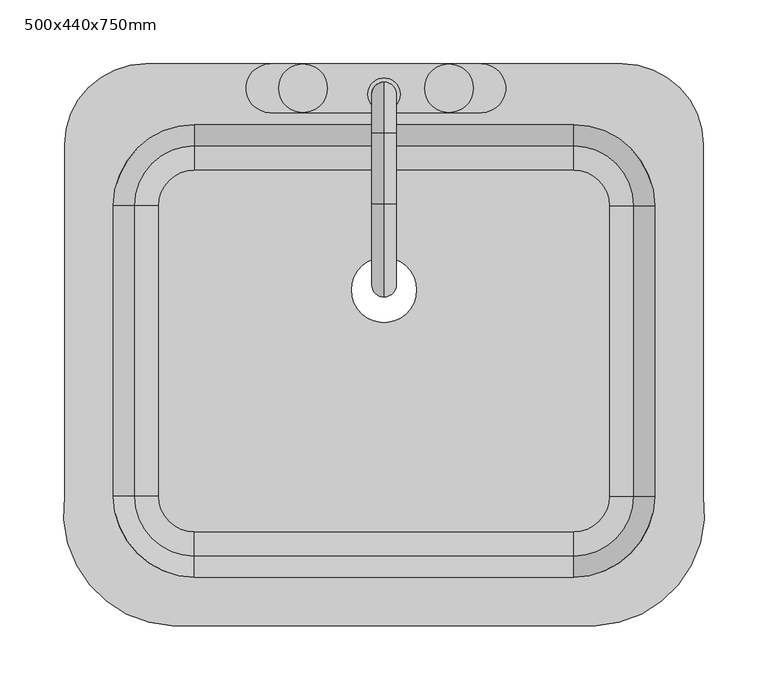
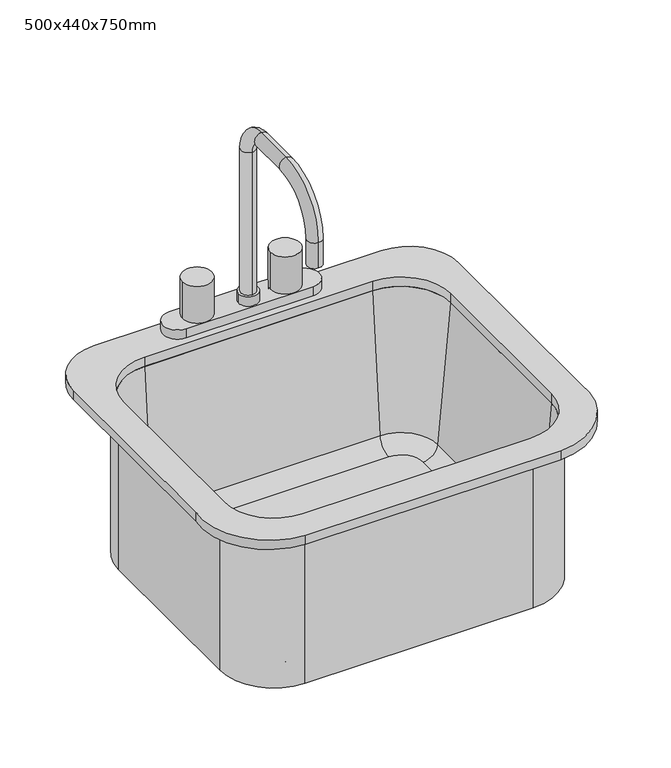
"""IFC4 building model written with IfcOpenShell, lengths in millimetres: flow terminal geometry, ARQ_LAVAPLATOS : 500x440x750mm."""

from ifc_helpers import new_model, si_unit, point, frame, frame_2d, origin, place, context, project, spatial, polyline, circle_curve, ellipse_curve, trimmed, segment, composite_curve, outline, extrude, source, transform, mapped, element, save
from ifc_brep_helpers import plane_surface, cylinder_surface, revolved_surface, advanced_brep


def flow_terminal_500x440x750mm_21f9f58f(model_context):
    return source(origin(), model_context, "Body", "SolidModel", [
        advanced_brep(
        [(233.9392406, 69.0204011, 534.1), (164.0892406, 138.8704011, 534.1), (164.0892406, 138.8704011, 750.0), (233.9392406, 69.0204011, 750.0), (233.9392406, -158.2545989, 534.1), (164.0892406, -228.1045989, 534.1), (-132.7107594, -228.1045989, 534.1), (-202.5607594, -158.2545989, 534.1), (-202.5607594, 69.0204011, 534.1), (-132.7107594, 138.8704011, 534.1), (-9.7107594, 3.175, 534.1), (41.0892406, 3.175, 534.1), (192.0776588, 69.0204011, 543.625), (164.0892406, 97.0088193, 543.625), (-132.7107594, 97.0088193, 543.625), (-160.6991776, 69.0204011, 543.625), (-160.6991776, -158.2545989, 543.625), (-132.7107594, -186.2430171, 543.625), (164.0892406, -186.2430171, 543.625), (192.0776588, -158.2545989, 543.625), (-9.7107594, 3.175, 543.625), (41.0892406, 3.175, 543.625), (211.0551678, 69.0204011, 561.0146831), (164.0892406, 115.9863283, 561.0146831), (227.5892406, 69.0204011, 750.0), (164.0892406, 132.5204011, 750.0), (233.9392406, -158.2545989, 750.0), (211.0551678, -158.2545989, 561.0146831), (227.5892406, -158.2545989, 750.0), (164.0892406, -228.1045989, 750.0), (164.0892406, -205.2205261, 561.0146831), (164.0892406, -221.7545989, 750.0), (-132.7107594, -228.1045989, 750.0), (-132.7107594, -205.2205261, 561.0146831), (-132.7107594, -221.7545989, 750.0), (-202.5607594, -158.2545989, 750.0), (-179.6766866, -158.2545989, 561.0146831), (-196.2107594, -158.2545989, 750.0), (-202.5607594, 69.0204011, 750.0), (-179.6766866, 69.0204011, 561.0146831), (-196.2107594, 69.0204011, 750.0), (-132.7107594, 138.8704011, 750.0), (-132.7107594, 115.9863283, 561.0146831), (-132.7107594, 132.5204011, 750.0)],
        [
            (0, 1, circle_curve(frame((164.0892406, 69.0204011, 534.1), z_axis=(0.0, 0.0, 1.0), x_axis=(0.0, 1.0, 0.0)), 69.85)),
            (1, 2),
            (2, 3, circle_curve(frame((164.0892406, 69.0204011, 750.0), z_axis=(0.0, 0.0, -1.0), x_axis=(0.0, 1.0, 0.0)), 69.85)),
            (3, 0),
            (0, 4),
            (4, 5, circle_curve(frame((164.0892406, -158.2545989, 534.1), z_axis=(0.0, 0.0, -1.0), x_axis=(1.0, 0.0, 0.0)), 69.85)),
            (5, 6),
            (6, 7, circle_curve(frame((-132.7107594, -158.2545989, 534.1), z_axis=(0.0, 0.0, -1.0), x_axis=(0.0, -1.0, 0.0)), 69.85)),
            (7, 8),
            (8, 9, circle_curve(frame((-132.7107594, 69.0204011, 534.1), z_axis=(0.0, 0.0, -1.0), x_axis=(-1.0, 0.0, 0.0)), 69.85)),
            (9, 1),
            (10, 11, circle_curve(frame((15.6892406, 3.175, 534.1), z_axis=(0.0, 0.0, 1.0), x_axis=(1.0, 0.0, 0.0)), 25.4)),
            (11, 10, circle_curve(frame((15.6892406, 3.175, 534.1), z_axis=(0.0, 0.0, 1.0), x_axis=(1.0, 0.0, 0.0)), 25.4)),
            (12, 13, circle_curve(frame((164.0892406, 69.0204011, 543.625), z_axis=(0.0, 0.0, 1.0), x_axis=(0.0, 1.0, 0.0)), 27.9884182)),
            (13, 14),
            (14, 15, circle_curve(frame((-132.7107594, 69.0204011, 543.625), z_axis=(0.0, 0.0, 1.0), x_axis=(-1.0, 0.0, 0.0)), 27.9884182)),
            (15, 16),
            (16, 17, circle_curve(frame((-132.7107594, -158.2545989, 543.625), z_axis=(0.0, 0.0, 1.0), x_axis=(0.0, -1.0, 0.0)), 27.9884182)),
            (17, 18),
            (18, 19, circle_curve(frame((164.0892406, -158.2545989, 543.625), z_axis=(0.0, 0.0, 1.0), x_axis=(1.0, 0.0, 0.0)), 27.9884182)),
            (19, 12),
            (20, 21, circle_curve(frame((15.6892406, 3.175, 543.625), z_axis=(0.0, 0.0, -1.0), x_axis=(1.0, 0.0, 0.0)), 25.4)),
            (21, 20, circle_curve(frame((15.6892406, 3.175, 543.625), z_axis=(0.0, 0.0, -1.0), x_axis=(1.0, 0.0, 0.0)), 25.4)),
            (12, 22, circle_curve(frame((192.0776588, 69.0204011, 562.675), z_axis=(0.0, -1.0, 0.0), x_axis=(1.0, 0.0, 0.0)), 19.05)),
            (22, 23, circle_curve(frame((164.0892406, 69.0204011, 561.0146831), z_axis=(0.0, 0.0, 1.0), x_axis=(0.0, 1.0, 0.0)), 46.9659272)),
            (23, 13, circle_curve(frame((164.0892406, 97.0088193, 562.675), z_axis=(-1.0, 0.0, 0.0), x_axis=(0.0, 1.0, 0.0)), 19.05)),
            (22, 24),
            (24, 25, circle_curve(frame((164.0892406, 69.0204011, 750.0), z_axis=(0.0, 0.0, 1.0), x_axis=(0.0, 1.0, 0.0)), 63.5)),
            (25, 23),
            (2, 25),
            (24, 3),
            (3, 26),
            (26, 4),
            (19, 27, circle_curve(frame((192.0776588, -158.2545989, 562.675), z_axis=(0.0, -1.0, 0.0), x_axis=(1.0, 0.0, 0.0)), 19.05)),
            (27, 22),
            (27, 28),
            (28, 24),
            (28, 26),
            (26, 29, circle_curve(frame((164.0892406, -158.2545989, 750.0), z_axis=(0.0, 0.0, -1.0), x_axis=(1.0, 0.0, 0.0)), 69.85)),
            (29, 5),
            (18, 30, circle_curve(frame((164.0892406, -186.2430171, 562.675), z_axis=(-1.0, 0.0, 0.0), x_axis=(0.0, -1.0, 0.0)), 19.05)),
            (30, 27, circle_curve(frame((164.0892406, -158.2545989, 561.0146831), z_axis=(0.0, 0.0, 1.0), x_axis=(1.0, 0.0, 0.0)), 46.9659272)),
            (30, 31),
            (31, 28, circle_curve(frame((164.0892406, -158.2545989, 750.0), z_axis=(0.0, 0.0, 1.0), x_axis=(1.0, 0.0, 0.0)), 63.5)),
            (31, 29),
            (29, 32),
            (32, 6),
            (17, 33, circle_curve(frame((-132.7107594, -186.2430171, 562.675), z_axis=(-1.0, 0.0, 0.0), x_axis=(0.0, -1.0, 0.0)), 19.05)),
            (33, 30),
            (33, 34),
            (34, 31),
            (34, 32),
            (32, 35, circle_curve(frame((-132.7107594, -158.2545989, 750.0), z_axis=(0.0, 0.0, -1.0), x_axis=(0.0, -1.0, 0.0)), 69.85)),
            (35, 7),
            (16, 36, circle_curve(frame((-160.6991776, -158.2545989, 562.675), z_axis=(0.0, 1.0, 0.0), x_axis=(-1.0, 0.0, 0.0)), 19.05)),
            (36, 33, circle_curve(frame((-132.7107594, -158.2545989, 561.0146831), z_axis=(0.0, 0.0, 1.0), x_axis=(0.0, -1.0, 0.0)), 46.9659272)),
            (36, 37),
            (37, 34, circle_curve(frame((-132.7107594, -158.2545989, 750.0), z_axis=(0.0, 0.0, 1.0), x_axis=(0.0, -1.0, 0.0)), 63.5)),
            (37, 35),
            (35, 38),
            (38, 8),
            (15, 39, circle_curve(frame((-160.6991776, 69.0204011, 562.675), z_axis=(0.0, 1.0, 0.0), x_axis=(-1.0, 0.0, 0.0)), 19.05)),
            (39, 36),
            (39, 40),
            (40, 37),
            (40, 38),
            (38, 41, circle_curve(frame((-132.7107594, 69.0204011, 750.0), z_axis=(0.0, 0.0, -1.0), x_axis=(-1.0, 0.0, 0.0)), 69.85)),
            (41, 9),
            (14, 42, circle_curve(frame((-132.7107594, 97.0088193, 562.675), z_axis=(1.0, 0.0, 0.0), x_axis=(0.0, 1.0, 0.0)), 19.05)),
            (42, 39, circle_curve(frame((-132.7107594, 69.0204011, 561.0146831), z_axis=(0.0, 0.0, 1.0), x_axis=(-1.0, 0.0, 0.0)), 46.9659272)),
            (42, 43),
            (43, 40, circle_curve(frame((-132.7107594, 69.0204011, 750.0), z_axis=(0.0, 0.0, 1.0), x_axis=(-1.0, 0.0, 0.0)), 63.5)),
            (43, 41),
            (41, 2),
            (23, 42),
            (25, 43),
            (20, 10),
            (11, 21),
        ],
        [
            cylinder_surface(frame((164.0892406, 69.0204011, 0.0), z_axis=(0.0, 0.0, -1.0), x_axis=(0.0, 1.0, 0.0)), 69.85),
            plane_surface(frame((164.0892406, 69.0204011, 534.1), z_axis=(0.0, 0.0, -1.0), x_axis=(0.0, 1.0, 0.0))),
            plane_surface(frame((164.0892406, 69.0204011, 543.625), z_axis=(0.0, 0.0, 1.0), x_axis=(0.0, 1.0, 0.0))),
            revolved_surface(trimmed(ellipse_curve(frame((164.0892406, 97.0088193, 562.675), z_axis=(1.0, 0.0, 0.0), x_axis=(0.0, 1.0, 0.0)), 19.05, 19.05), [point((164.0892406, 97.0088193, 543.625))], [point((164.0892406, 115.9863283, 561.0146831))], True, "CARTESIAN"), (164.0892406, 69.0204011, 0.0), (0.0, 0.0, -1.0)),
            revolved_surface(polyline([(164.0892406, 115.9863283, 561.0146831), (164.0892406, 132.5204011, 750.0)]), (164.0892406, 69.0204011, 0.0), (0.0, 0.0, -1.0)),
            plane_surface(frame((164.0892406, 69.0204011, 750.0), z_axis=(0.0, 0.0, 1.0), x_axis=(0.0, 1.0, 0.0))),
            plane_surface(frame((233.9392406, 69.0204011, 750.0), z_axis=(1.0, 0.0, 0.0), x_axis=(0.0, -1.0, 0.0))),
            revolved_surface(polyline([(211.1276588, -158.25459889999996, 562.675), (211.1276588, 69.0204011, 562.675)]), (192.0776588, 69.0204011, 562.675), (0.0, -1.0, 0.0)),
            plane_surface(frame((211.0551678, 69.0204011, 561.0146831), z_axis=(-0.9961946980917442, 0.0, 0.0871557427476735), x_axis=(0.0, -1.0, 0.0))),
            plane_surface(frame((227.5892406, 69.0204011, 750.0), z_axis=(0.0, 0.0, 1.0), x_axis=(0.0, -1.0, 0.0))),
            cylinder_surface(frame((164.0892406, -158.2545989, 0.0), z_axis=(0.0, 0.0, -1.0), x_axis=(1.0, 0.0, 0.0)), 69.85),
            revolved_surface(trimmed(ellipse_curve(frame((192.0776588, -158.2545989, 562.675), z_axis=(0.0, -1.0, 0.0), x_axis=(1.0, 0.0, 0.0)), 19.05, 19.05), [point((192.0776588, -158.2545989, 543.625))], [point((211.0551678, -158.2545989, 561.0146831))], True, "CARTESIAN"), (164.0892406, -158.2545989, 0.0), (0.0, 0.0, -1.0)),
            revolved_surface(polyline([(211.0551678, -158.2545989, 561.0146831), (227.5892406, -158.2545989, 750.0)]), (164.0892406, -158.2545989, 0.0), (0.0, 0.0, -1.0)),
            plane_surface(frame((164.0892406, -158.2545989, 750.0), z_axis=(0.0, 0.0, 1.0), x_axis=(1.0, 0.0, 0.0))),
            plane_surface(frame((164.0892406, -228.1045989, 750.0), z_axis=(0.0, -1.0, 0.0), x_axis=(-1.0, 0.0, 0.0))),
            revolved_surface(polyline([(-132.7107594, -205.29301710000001, 562.675), (164.0892406, -205.29301710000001, 562.675)]), (164.0892406, -186.2430171, 562.675), (-1.0, 0.0, 0.0)),
            plane_surface(frame((164.0892406, -205.2205261, 561.0146831), z_axis=(0.0, 0.9961946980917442, 0.0871557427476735), x_axis=(-1.0, 0.0, 0.0))),
            plane_surface(frame((164.0892406, -221.7545989, 750.0), z_axis=(0.0, 0.0, 1.0), x_axis=(-1.0, 0.0, 0.0))),
            cylinder_surface(frame((-132.7107594, -158.2545989, 0.0), z_axis=(0.0, 0.0, -1.0), x_axis=(0.0, -1.0, 0.0)), 69.85),
            revolved_surface(trimmed(ellipse_curve(frame((-132.7107594, -186.2430171, 562.675), z_axis=(-1.0, 0.0, 0.0), x_axis=(0.0, -1.0, 0.0)), 19.05, 19.05), [point((-132.7107594, -186.2430171, 543.625))], [point((-132.7107594, -205.2205261, 561.0146831))], True, "CARTESIAN"), (-132.7107594, -158.2545989, 0.0), (0.0, 0.0, -1.0)),
            revolved_surface(polyline([(-132.7107594, -205.2205261, 561.0146831), (-132.7107594, -221.7545989, 750.0)]), (-132.7107594, -158.2545989, 0.0), (0.0, 0.0, -1.0)),
            plane_surface(frame((-132.7107594, -158.2545989, 750.0), z_axis=(0.0, 0.0, 1.0), x_axis=(0.0, -1.0, 0.0))),
            plane_surface(frame((-202.5607594, -158.2545989, 750.0), z_axis=(-1.0, 0.0, 0.0), x_axis=(0.0, 1.0, 0.0))),
            revolved_surface(polyline([(-179.74917760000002, 69.02040109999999, 562.675), (-179.74917760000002, -158.2545989, 562.675)]), (-160.6991776, -158.2545989, 562.675), (0.0, 1.0, 0.0)),
            plane_surface(frame((-179.6766866, -158.2545989, 561.0146831), z_axis=(0.9961946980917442, 0.0, 0.0871557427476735), x_axis=(0.0, 1.0, 0.0))),
            plane_surface(frame((-196.2107594, -158.2545989, 750.0), z_axis=(0.0, 0.0, 1.0), x_axis=(0.0, 1.0, 0.0))),
            cylinder_surface(frame((-132.7107594, 69.0204011, 0.0), z_axis=(0.0, 0.0, -1.0), x_axis=(-1.0, 0.0, 0.0)), 69.85),
            revolved_surface(trimmed(ellipse_curve(frame((-160.6991776, 69.0204011, 562.675), z_axis=(0.0, 1.0, 0.0), x_axis=(-1.0, 0.0, 0.0)), 19.05, 19.05), [point((-160.6991776, 69.0204011, 543.625))], [point((-179.6766866, 69.0204011, 561.0146831))], True, "CARTESIAN"), (-132.7107594, 69.0204011, 0.0), (0.0, 0.0, -1.0)),
            revolved_surface(polyline([(-179.6766866, 69.0204011, 561.0146831), (-196.2107594, 69.0204011, 750.0)]), (-132.7107594, 69.0204011, 0.0), (0.0, 0.0, -1.0)),
            plane_surface(frame((-132.7107594, 69.0204011, 750.0), z_axis=(0.0, 0.0, 1.0), x_axis=(-1.0, 0.0, 0.0))),
            plane_surface(frame((-132.7107594, 138.8704011, 750.0), z_axis=(0.0, 1.0, 0.0), x_axis=(1.0, 0.0, 0.0))),
            revolved_surface(polyline([(164.0892406, 116.0588193, 562.675), (-132.7107594, 116.0588193, 562.675)]), (-132.7107594, 97.0088193, 562.675), (1.0, 0.0, 0.0)),
            plane_surface(frame((-132.7107594, 115.9863283, 561.0146831), z_axis=(0.0, -0.9961946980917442, 0.0871557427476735), x_axis=(1.0, 0.0, 0.0))),
            plane_surface(frame((-132.7107594, 132.5204011, 750.0), z_axis=(0.0, 0.0, 1.0), x_axis=(1.0, 0.0, 0.0))),
            revolved_surface(polyline([(41.0892406, 3.175, 534.1), (41.0892406, 3.175, 543.625)]), (15.6892406, 3.175, 0.0), (0.0, 0.0, -1.0)),
        ],
        [
            (0, [[1, 2, 3, 4]]),
            (1, [[-1, 5, 6, 7, 8, 9, 10, 11], [12, 13]]),
            (2, [[14, 15, 16, 17, 18, 19, 20, 21], [22, 23]]),
            (3, [[-14, 24, 25, 26]]),
            (4, [[-25, 27, 28, 29]]),
            (5, [[-3, 30, -28, 31]]),
            (6, [[-4, 32, 33, -5]]),
            (7, [[-24, -21, 34, 35]]),
            (8, [[-27, -35, 36, 37]]),
            (9, [[-31, -37, 38, -32]]),
            (10, [[-33, 39, 40, -6]]),
            (11, [[-34, -20, 41, 42]]),
            (12, [[-36, -42, 43, 44]]),
            (13, [[-38, -44, 45, -39]]),
            (14, [[-40, 46, 47, -7]]),
            (15, [[-41, -19, 48, 49]]),
            (16, [[-43, -49, 50, 51]]),
            (17, [[-45, -51, 52, -46]]),
            (18, [[-47, 53, 54, -8]]),
            (19, [[-48, -18, 55, 56]]),
            (20, [[-50, -56, 57, 58]]),
            (21, [[-52, -58, 59, -53]]),
            (22, [[-54, 60, 61, -9]]),
            (23, [[-55, -17, 62, 63]]),
            (24, [[-57, -63, 64, 65]]),
            (25, [[-59, -65, 66, -60]]),
            (26, [[-61, 67, 68, -10]]),
            (27, [[-62, -16, 69, 70]]),
            (28, [[-64, -70, 71, 72]]),
            (29, [[-66, -72, 73, -67]]),
            (30, [[-2, -11, -68, 74]]),
            (31, [[-26, 75, -69, -15]]),
            (32, [[-29, 76, -71, -75]]),
            (33, [[-30, -74, -73, -76]]),
            (34, [[-22, 77, -13, 78]]),
            (34, [[-23, -78, -12, -77]]),
        ],
    ),
        advanced_brep(
        [(91.8892406, 180.1454011, 762.7), (91.8892406, 142.0454011, 762.7), (-73.2107594, 142.0454011, 762.7), (-73.2107594, 180.1454011, 762.7), (15.6892406, 165.8579011, 983.3625), (15.6892406, 146.8079011, 983.3625), (15.6892406, 146.8079011, 788.1), (15.6892406, 165.8579011, 788.1), (15.6892406, 126.1704011, 1023.05), (15.6892406, 126.1704011, 1004.0), (15.6892406, 70.6079011, 1023.05), (15.6892406, 70.6079011, 1004.0), (15.6892406, -2.4170989, 950.025), (15.6892406, 16.6329011, 950.025), (15.6892406, -2.4170989, 915.1), (15.6892406, 16.6329011, 915.1), (2.9892406, 156.3329011, 788.1), (28.3892406, 156.3329011, 788.1), (2.9892406, 156.3329011, 775.2), (28.3892406, 156.3329011, 775.2), (91.8892406, 180.1454011, 775.2), (-73.2107594, 180.1454011, 775.2), (-73.2107594, 142.0454011, 775.2), (91.8892406, 142.0454011, 775.2)],
        [
            (0, 1, circle_curve(frame((91.8892406, 161.0954011, 762.7), z_axis=(0.0, 0.0, -1.0), x_axis=(1.0, 0.0, 0.0)), 19.05)),
            (1, 2),
            (2, 3, circle_curve(frame((-73.2107594, 161.0954011, 762.7), z_axis=(0.0, 0.0, -1.0), x_axis=(1.0, 0.0, 0.0)), 19.05)),
            (3, 0),
            (4, 5, circle_curve(frame((15.6892406, 156.3329011, 983.3625), z_axis=(0.0, 0.0, -1.0), x_axis=(0.0, -1.0, 0.0)), 9.525)),
            (5, 6),
            (6, 7, circle_curve(frame((15.6892406, 156.3329011, 788.1), z_axis=(0.0, 0.0, 1.0), x_axis=(0.0, -1.0, 0.0)), 9.525)),
            (7, 4),
            (5, 4, circle_curve(frame((15.6892406, 156.3329011, 983.3625), z_axis=(0.0, 0.0, -1.0), x_axis=(0.0, -1.0, 0.0)), 9.525)),
            (7, 6, circle_curve(frame((15.6892406, 156.3329011, 788.1), z_axis=(0.0, 0.0, 1.0), x_axis=(0.0, -1.0, 0.0)), 9.525)),
            (4, 8, circle_curve(frame((15.6892406, 126.1704011, 983.3625), z_axis=(1.0, 0.0, 0.0), x_axis=(0.0, 1.0, 0.0)), 39.6875)),
            (8, 9, circle_curve(frame((15.6892406, 126.1704011, 1013.525), z_axis=(0.0, 1.0, 0.0), x_axis=(0.0, 0.0, -1.0)), 9.525)),
            (9, 5, circle_curve(frame((15.6892406, 126.1704011, 983.3625), z_axis=(-1.0, 0.0, 0.0), x_axis=(0.0, 1.0, 0.0)), 20.6375)),
            (9, 8, circle_curve(frame((15.6892406, 126.1704011, 1013.525), z_axis=(0.0, 1.0, 0.0), x_axis=(0.0, 0.0, -1.0)), 9.525)),
            (8, 10),
            (10, 11, circle_curve(frame((15.6892406, 70.6079011, 1013.525), z_axis=(0.0, 1.0, 0.0), x_axis=(0.0, 0.0, -1.0)), 9.525)),
            (11, 9),
            (11, 10, circle_curve(frame((15.6892406, 70.6079011, 1013.525), z_axis=(0.0, 1.0, 0.0), x_axis=(0.0, 0.0, -1.0)), 9.525)),
            (10, 12, circle_curve(frame((15.6892406, 70.6079011, 950.025), z_axis=(1.0, 0.0, 0.0), x_axis=(0.0, 0.0, 1.0)), 73.025)),
            (12, 13, circle_curve(frame((15.6892406, 7.1079011, 950.025), z_axis=(0.0, 0.0, 1.0), x_axis=(0.0, 1.0, 0.0)), 9.525)),
            (13, 11, circle_curve(frame((15.6892406, 70.6079011, 950.025), z_axis=(-1.0, 0.0, 0.0), x_axis=(0.0, 0.0, 1.0)), 53.975)),
            (13, 12, circle_curve(frame((15.6892406, 7.1079011, 950.025), z_axis=(0.0, 0.0, 1.0), x_axis=(0.0, 1.0, 0.0)), 9.525)),
            (14, 15, circle_curve(frame((15.6892406, 7.1079011, 915.1), z_axis=(0.0, 0.0, -1.0), x_axis=(0.0, 1.0, 0.0)), 9.525)),
            (15, 14, circle_curve(frame((15.6892406, 7.1079011, 915.1), z_axis=(0.0, 0.0, -1.0), x_axis=(0.0, 1.0, 0.0)), 9.525)),
            (12, 14),
            (15, 13),
            (16, 17, circle_curve(frame((15.6892406, 156.3329011, 788.1), z_axis=(0.0, 0.0, 1.0), x_axis=(1.0, 0.0, 0.0)), 12.7)),
            (17, 16, circle_curve(frame((15.6892406, 156.3329011, 788.1), z_axis=(0.0, 0.0, 1.0), x_axis=(1.0, 0.0, 0.0)), 12.7)),
            (16, 18),
            (18, 19, circle_curve(frame((15.6892406, 156.3329011, 775.2), z_axis=(0.0, 0.0, 1.0), x_axis=(1.0, 0.0, 0.0)), 12.7)),
            (19, 17),
            (19, 18, circle_curve(frame((15.6892406, 156.3329011, 775.2), z_axis=(0.0, 0.0, 1.0), x_axis=(1.0, 0.0, 0.0)), 12.7)),
            (20, 21),
            (21, 22, circle_curve(frame((-73.2107594, 161.0954011, 775.2), z_axis=(0.0, 0.0, 1.0), x_axis=(1.0, 0.0, 0.0)), 19.05)),
            (22, 23),
            (23, 20, circle_curve(frame((91.8892406, 161.0954011, 775.2), z_axis=(0.0, 0.0, 1.0), x_axis=(1.0, 0.0, 0.0)), 19.05)),
            (20, 0),
            (3, 21),
            (2, 22),
            (1, 23),
        ],
        [
            plane_surface(frame((15.6892406, 146.8079011, 762.7), z_axis=(0.0, 0.0, -1.0), x_axis=(1.0, 0.0, 0.0))),
            cylinder_surface(frame((15.6892406, 156.3329011, 762.7), z_axis=(0.0, 0.0, -1.0), x_axis=(0.0, -1.0, 0.0)), 9.525),
            revolved_surface(trimmed(ellipse_curve(frame((15.6892406, 156.3329011, 983.3625), z_axis=(0.0, 0.0, -1.0), x_axis=(0.0, -1.0, 0.0)), 9.525, 9.525), [point((15.6892406, 165.8579011, 983.3625))], [point((15.6892406, 146.8079011, 983.3625))], True, "CARTESIAN"), (15.6892406, 126.1704011, 983.3625), (1.0, 0.0, 0.0)),
            revolved_surface(trimmed(ellipse_curve(frame((15.6892406, 156.3329011, 983.3625), z_axis=(0.0, 0.0, -1.0), x_axis=(0.0, -1.0, 0.0)), 9.525, 9.525), [point((15.6892406, 146.8079011, 983.3625))], [point((15.6892406, 165.8579011, 983.3625))], True, "CARTESIAN"), (15.6892406, 126.1704011, 983.3625), (1.0, 0.0, 0.0)),
            cylinder_surface(frame((15.6892406, 126.1704011, 1013.525), z_axis=(0.0, 1.0, 0.0), x_axis=(0.0, 0.0, -1.0)), 9.525),
            revolved_surface(trimmed(ellipse_curve(frame((15.6892406, 70.6079011, 1013.525), z_axis=(0.0, 1.0, 0.0), x_axis=(0.0, 0.0, -1.0)), 9.525, 9.525), [point((15.6892406, 70.6079011, 1023.05))], [point((15.6892406, 70.6079011, 1004.0))], True, "CARTESIAN"), (15.6892406, 70.6079011, 950.025), (1.0, 0.0, 0.0)),
            revolved_surface(trimmed(ellipse_curve(frame((15.6892406, 70.6079011, 1013.525), z_axis=(0.0, 1.0, 0.0), x_axis=(0.0, 0.0, -1.0)), 9.525, 9.525), [point((15.6892406, 70.6079011, 1004.0))], [point((15.6892406, 70.6079011, 1023.05))], True, "CARTESIAN"), (15.6892406, 70.6079011, 950.025), (1.0, 0.0, 0.0)),
            plane_surface(frame((15.6892406, -2.4170989, 915.1), z_axis=(0.0, 0.0, -1.0), x_axis=(-1.0, 0.0, 0.0))),
            cylinder_surface(frame((15.6892406, 7.1079011, 950.025), z_axis=(0.0, 0.0, 1.0), x_axis=(0.0, 1.0, 0.0)), 9.525),
            plane_surface(frame((28.3892406, 156.3329011, 788.1), z_axis=(0.0, 0.0, 1.0), x_axis=(0.0, 1.0, 0.0))),
            cylinder_surface(frame((15.6892406, 156.3329011, 762.7), z_axis=(0.0, 0.0, 1.0), x_axis=(1.0, 0.0, 0.0)), 12.7),
            plane_surface(frame((-73.2107594, 180.1454011, 775.2), z_axis=(0.0, 0.0, 1.0), x_axis=(-1.0, 0.0, 0.0))),
            plane_surface(frame((91.8892406, 180.1454011, 775.2), z_axis=(0.0, 1.0, 0.0), x_axis=(0.0, 0.0, -1.0))),
            cylinder_surface(frame((-73.2107594, 161.0954011, 762.7), z_axis=(0.0, 0.0, 1.0), x_axis=(1.0, 0.0, 0.0)), 19.05),
            plane_surface(frame((-73.2107594, 142.0454011, 775.2), z_axis=(0.0, -1.0, 0.0), x_axis=(0.0, 0.0, -1.0))),
            cylinder_surface(frame((91.8892406, 161.0954011, 762.7), z_axis=(0.0, 0.0, 1.0), x_axis=(1.0, 0.0, 0.0)), 19.05),
        ],
        [
            (0, [[1, 2, 3, 4]]),
            (1, [[5, 6, 7, 8]]),
            (1, [[9, -8, 10, -6]]),
            (2, [[-5, 11, 12, 13]]),
            (3, [[-9, -13, 14, -11]]),
            (4, [[-12, 15, 16, 17]]),
            (4, [[-14, -17, 18, -15]]),
            (5, [[-16, 19, 20, 21]]),
            (6, [[-18, -21, 22, -19]]),
            (7, [[23, 24]]),
            (8, [[-20, 25, -24, 26]]),
            (8, [[-22, -26, -23, -25]]),
            (9, [[27, 28], [-7, -10]]),
            (10, [[-27, 29, 30, 31]]),
            (10, [[-28, -31, 32, -29]]),
            (11, [[33, 34, 35, 36], [-30, -32]]),
            (12, [[-33, 37, -4, 38]]),
            (13, [[-34, -38, -3, 39]]),
            (14, [[-35, -39, -2, 40]]),
            (15, [[-36, -40, -1, -37]]),
        ],
    ),
        extrude(outline(composite_curve([segment(trimmed(circle_curve(frame_2d((-47.8107594, 161.0954011)), 19.05), [point((-66.8607594, 161.0954011))], [point((-28.7607594, 161.0954011))], False, "CARTESIAN"), True, "CONTINUOUS"), segment(trimmed(circle_curve(frame_2d((-47.8107594, 161.0954011)), 19.05), [point((-28.7607594, 161.0954011))], [point((-66.8607594, 161.0954011))], False, "CARTESIAN"), True, "CONTINUOUS")], self_intersect=False)), frame((0.0, 0.0, 762.7), z_axis=(0.0, 0.0, 1.0), x_axis=(1.0, 0.0, 0.0)), (0.0, 0.0, 1.0), 63.5),
        extrude(outline(composite_curve([segment(trimmed(circle_curve(frame_2d((66.4892406, 161.0954011)), 19.05), [point((47.4392406, 161.0954011))], [point((85.5392406, 161.0954011))], False, "CARTESIAN"), True, "CONTINUOUS"), segment(trimmed(circle_curve(frame_2d((66.4892406, 161.0954011)), 19.05), [point((85.5392406, 161.0954011))], [point((47.4392406, 161.0954011))], False, "CARTESIAN"), True, "CONTINUOUS")], self_intersect=False)), frame((0.0, 0.0, 762.7), z_axis=(0.0, 0.0, 1.0), x_axis=(1.0, 0.0, 0.0)), (0.0, 0.0, 1.0), 63.5),
        extrude(outline(composite_curve([segment(trimmed(circle_curve(frame_2d((-146.1534746, -170.8793432)), 89.0566732), [point((-149.9606923, -259.8545989))], [point((-234.3107593, -158.2545982))], False, "CARTESIAN"), True, "CONTINUOUS"), segment(polyline([(-234.3107593, -158.2545982), (-234.3107593, 116.6454011)]), True, "CONTINUOUS"), segment(trimmed(circle_curve(frame_2d((-170.8107593, 116.6454011)), 63.5), [point((-234.3107593, 116.6454011))], [point((-170.8107593, 180.1454011))], False, "CARTESIAN"), True, "CONTINUOUS"), segment(polyline([(-170.8107593, 180.1454011), (202.1892406, 180.1454011)]), True, "CONTINUOUS"), segment(trimmed(circle_curve(frame_2d((202.1892406, 116.6454011)), 63.5), [point((202.1892406, 180.1454011))], [point((265.6892406, 116.6454011))], False, "CARTESIAN"), True, "CONTINUOUS"), segment(polyline([(265.6892406, 116.6454011), (265.6892406, -158.2545989)]), True, "CONTINUOUS"), segment(trimmed(circle_curve(frame_2d((177.5319557, -170.8793432)), 89.0566732), [point((265.6892406, -158.2545989))], [point((181.3391735, -259.8545989))], False, "CARTESIAN"), True, "CONTINUOUS"), segment(polyline([(181.3391735, -259.8545989), (-149.9606923, -259.8545989)]), True, "CONTINUOUS")], self_intersect=False), holes=[composite_curve([segment(polyline([(164.0892406, 132.5204011), (-132.7107594, 132.5204011)]), True, "CONTINUOUS"), segment(trimmed(circle_curve(frame_2d((-132.7107594, 69.0204011)), 63.5), [point((-132.7107594, 132.5204011))], [point((-196.2107594, 69.0204011))], True, "CARTESIAN"), True, "CONTINUOUS"), segment(polyline([(-196.2107594, 69.0204011), (-196.2107594, -158.2545989)]), True, "CONTINUOUS"), segment(trimmed(circle_curve(frame_2d((-132.7107594, -158.2545989)), 63.5), [point((-196.2107594, -158.2545989))], [point((-132.7107594, -221.7545989))], True, "CARTESIAN"), True, "CONTINUOUS"), segment(polyline([(-132.7107594, -221.7545989), (164.0892406, -221.7545989)]), True, "CONTINUOUS"), segment(trimmed(circle_curve(frame_2d((164.0892406, -158.2545989)), 63.5), [point((164.0892406, -221.7545989))], [point((227.5892406, -158.2545989))], True, "CARTESIAN"), True, "CONTINUOUS"), segment(polyline([(227.5892406, -158.2545989), (227.5892406, 69.0204011)]), True, "CONTINUOUS"), segment(trimmed(circle_curve(frame_2d((164.0892406, 69.0204011)), 63.5), [point((227.5892406, 69.0204011))], [point((164.0892406, 132.5204011))], True, "CARTESIAN"), True, "CONTINUOUS")], self_intersect=False)]), frame((0.0, 0.0, 750.0), z_axis=(0.0, 0.0, 1.0), x_axis=(1.0, 0.0, 0.0)), (0.0, 0.0, 1.0), 12.7),
    ])


if __name__ == "__main__":
    model = new_model("IFC4")
    model_context = context("Model", 3, world=origin())
    ifc_project = project(units=[si_unit("LENGTHUNIT", "METRE", prefix="MILLI")], contexts=[model_context])
    site = spatial("IfcSite", under=ifc_project)
    building = spatial("IfcBuilding", under=site)
    placement = place(None, origin())
    flow_terminal_500x440x750mm_shape = flow_terminal_500x440x750mm_21f9f58f(model_context)
    element("IfcFlowTerminal", 1, ObjectType="ARQ_LAVAPLATOS : 500x440x750mm", at=placement, inside=building, context=model_context, shape_type="MappedRepresentation", body=[
        mapped(flow_terminal_500x440x750mm_shape, transform((0.0, 0.0, 0.0), x_axis=(1.0, 0.0, 0.0), y_axis=(0.0, 1.0, 0.0), z_axis=(0.0, 0.0, 1.0))),
    ])
    save(model, "model.ifc")
